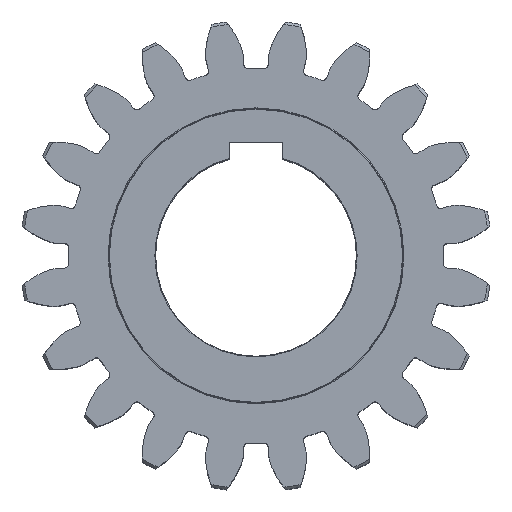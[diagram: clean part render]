
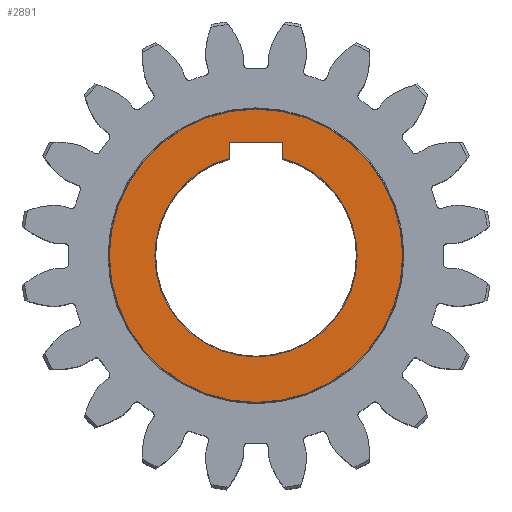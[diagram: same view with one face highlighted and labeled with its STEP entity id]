
A CAD part, top view. The second image highlights one B-rep face of the part: STEP entity #2891.
In plain terms, the highlighted planar face has unit normal (0, 0, 1).
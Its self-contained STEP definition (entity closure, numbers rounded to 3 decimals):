
#399 = EDGE_CURVE ( 'NONE', #5138, #9283, #770, .T. ) ;
#626 = EDGE_CURVE ( 'NONE', #3899, #2950, #13207, .T. ) ;
#673 = VERTEX_POINT ( 'NONE', #6554 ) ;
#759 = CARTESIAN_POINT ( 'NONE',  ( 0., 0., 50. ) ) ;
#770 = CIRCLE ( 'NONE', #11582, 54.75 ) ;
#851 = ORIENTED_EDGE ( 'NONE', *, *, #2714, .T. ) ;
#876 = CIRCLE ( 'NONE', #3224, 54.75 ) ;
#1057 = VERTEX_POINT ( 'NONE', #10988 ) ;
#1149 = CARTESIAN_POINT ( 'NONE',  ( 0., 0., 50. ) ) ;
#1562 = ORIENTED_EDGE ( 'NONE', *, *, #399, .T. ) ;
#1640 = CARTESIAN_POINT ( 'NONE',  ( -10., 32.6, 50. ) ) ;
#2122 = EDGE_LOOP ( 'NONE', ( #10174, #3162, #9222, #12349, #851, #3097 ) ) ;
#2210 = EDGE_CURVE ( 'NONE', #673, #1057, #9329, .T. ) ;
#2276 = DIRECTION ( 'NONE',  ( 0., 0., 1. ) ) ;
#2460 = EDGE_CURVE ( 'NONE', #9283, #5138, #876, .T. ) ;
#2714 = EDGE_CURVE ( 'NONE', #4687, #7722, #7416, .T. ) ;
#2891 = ADVANCED_FACE ( 'NONE', ( #8445, #10512 ), #11694, .T. ) ;
#2950 = VERTEX_POINT ( 'NONE', #5178 ) ;
#3097 = ORIENTED_EDGE ( 'NONE', *, *, #14182, .T. ) ;
#3162 = ORIENTED_EDGE ( 'NONE', *, *, #7390, .T. ) ;
#3224 = AXIS2_PLACEMENT_3D ( 'NONE', #759, #9798, #12896 ) ;
#3707 = CARTESIAN_POINT ( 'NONE',  ( -10., 36.401, 50. ) ) ;
#3752 = DIRECTION ( 'NONE',  ( 0., -1., 0. ) ) ;
#3813 = DIRECTION ( 'NONE',  ( 1., 0., 0. ) ) ;
#3899 = VERTEX_POINT ( 'NONE', #6389 ) ;
#4687 = VERTEX_POINT ( 'NONE', #3707 ) ;
#4833 = CARTESIAN_POINT ( 'NONE',  ( 10., 32.6, 50. ) ) ;
#4848 = VECTOR ( 'NONE', #3752, 1000. ) ;
#4896 = CARTESIAN_POINT ( 'NONE',  ( 54.75, 0., 50. ) ) ;
#4904 = DIRECTION ( 'NONE',  ( 0., 0., -1. ) ) ;
#4939 = EDGE_CURVE ( 'NONE', #2950, #4687, #8732, .T. ) ;
#5138 = VERTEX_POINT ( 'NONE', #4896 ) ;
#5178 = CARTESIAN_POINT ( 'NONE',  ( -37.75, 0., 50. ) ) ;
#5556 = LINE ( 'NONE', #6512, #11681 ) ;
#5946 = CARTESIAN_POINT ( 'NONE',  ( -54.75, 0., 50. ) ) ;
#6079 = DIRECTION ( 'NONE',  ( 1., 0., 0. ) ) ;
#6141 = DIRECTION ( 'NONE',  ( 0., 0., 1. ) ) ;
#6334 = AXIS2_PLACEMENT_3D ( 'NONE', #12994, #6141, #12925 ) ;
#6389 = CARTESIAN_POINT ( 'NONE',  ( 37.75, 0., 50. ) ) ;
#6512 = CARTESIAN_POINT ( 'NONE',  ( 10., 42.4, 50. ) ) ;
#6554 = CARTESIAN_POINT ( 'NONE',  ( 10., 42.4, 50. ) ) ;
#6715 = VECTOR ( 'NONE', #13014, 1000. ) ;
#6732 = DIRECTION ( 'NONE',  ( 1., 0., 0. ) ) ;
#7390 = EDGE_CURVE ( 'NONE', #1057, #3899, #12081, .T. ) ;
#7416 = LINE ( 'NONE', #1640, #6715 ) ;
#7469 = CARTESIAN_POINT ( 'NONE',  ( 0., 0., 50. ) ) ;
#7722 = VERTEX_POINT ( 'NONE', #10308 ) ;
#7840 = DIRECTION ( 'NONE',  ( 1., 0., 0. ) ) ;
#8445 = FACE_OUTER_BOUND ( 'NONE', #13988, .T. ) ;
#8446 = DIRECTION ( 'NONE',  ( 0., 0., -1. ) ) ;
#8732 = CIRCLE ( 'NONE', #11575, 37.75 ) ;
#8855 = DIRECTION ( 'NONE',  ( 0., 0., -1. ) ) ;
#9222 = ORIENTED_EDGE ( 'NONE', *, *, #626, .T. ) ;
#9233 = AXIS2_PLACEMENT_3D ( 'NONE', #1149, #8855, #13406 ) ;
#9283 = VERTEX_POINT ( 'NONE', #5946 ) ;
#9329 = LINE ( 'NONE', #4833, #4848 ) ;
#9798 = DIRECTION ( 'NONE',  ( 0., 0., 1. ) ) ;
#10174 = ORIENTED_EDGE ( 'NONE', *, *, #2210, .T. ) ;
#10308 = CARTESIAN_POINT ( 'NONE',  ( -10., 42.4, 50. ) ) ;
#10512 = FACE_BOUND ( 'NONE', #2122, .T. ) ;
#10927 = ORIENTED_EDGE ( 'NONE', *, *, #2460, .T. ) ;
#10988 = CARTESIAN_POINT ( 'NONE',  ( 10., 36.401, 50. ) ) ;
#11575 = AXIS2_PLACEMENT_3D ( 'NONE', #7469, #8446, #6079 ) ;
#11582 = AXIS2_PLACEMENT_3D ( 'NONE', #12335, #2276, #6732 ) ;
#11681 = VECTOR ( 'NONE', #7840, 1000. ) ;
#11694 = PLANE ( 'NONE',  #6334 ) ;
#12081 = CIRCLE ( 'NONE', #13015, 37.75 ) ;
#12335 = CARTESIAN_POINT ( 'NONE',  ( 0., 0., 50. ) ) ;
#12349 = ORIENTED_EDGE ( 'NONE', *, *, #4939, .T. ) ;
#12896 = DIRECTION ( 'NONE',  ( 1., 0., 0. ) ) ;
#12925 = DIRECTION ( 'NONE',  ( 1., 0., 0. ) ) ;
#12994 = CARTESIAN_POINT ( 'NONE',  ( 0., 0., 50. ) ) ;
#13014 = DIRECTION ( 'NONE',  ( 0., 1., 0. ) ) ;
#13015 = AXIS2_PLACEMENT_3D ( 'NONE', #13063, #4904, #3813 ) ;
#13063 = CARTESIAN_POINT ( 'NONE',  ( 0., 0., 50. ) ) ;
#13207 = CIRCLE ( 'NONE', #9233, 37.75 ) ;
#13406 = DIRECTION ( 'NONE',  ( 1., 0., 0. ) ) ;
#13988 = EDGE_LOOP ( 'NONE', ( #10927, #1562 ) ) ;
#14182 = EDGE_CURVE ( 'NONE', #7722, #673, #5556, .T. ) ;
